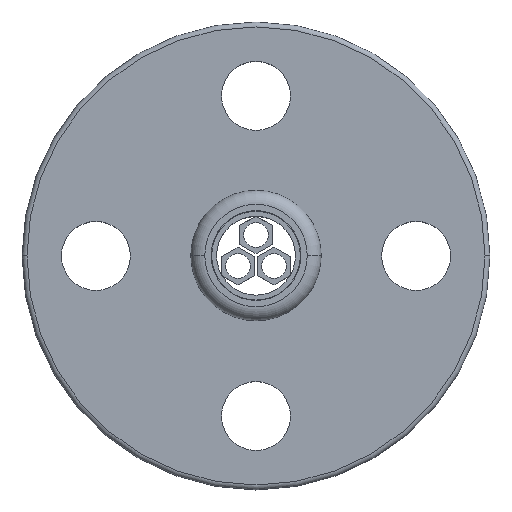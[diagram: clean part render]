
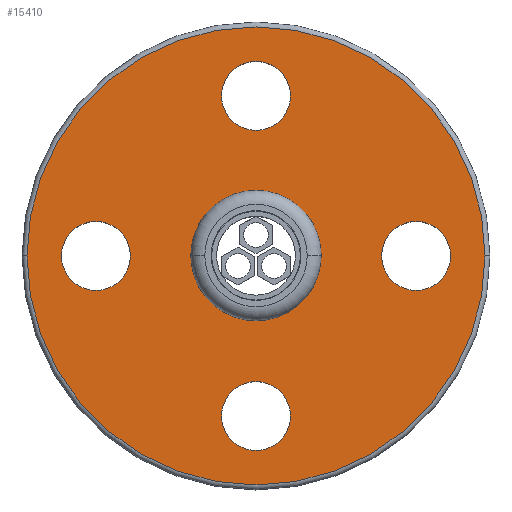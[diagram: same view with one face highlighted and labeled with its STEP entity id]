
A CAD part, top view. The second image highlights one B-rep face of the part: STEP entity #15410.
In plain terms, the highlighted planar face has unit normal (0, 0, 1) as drawn and (0, 1, 0) by its records, which use the part's own axes.
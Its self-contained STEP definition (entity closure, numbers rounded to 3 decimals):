
#14180=CARTESIAN_POINT('',(-193.976,16.121,
0.));
#14190=VERTEX_POINT('',#14180);
#14270=CARTESIAN_POINT('',(-211.976,16.121,0.));
#14280=VERTEX_POINT('',#14270);
#14310=CARTESIAN_POINT('',(-202.976,16.121,0.));
#14320=DIRECTION('',(0.,1.,0.));
#14330=DIRECTION('',(1.,0.,0.));
#14340=AXIS2_PLACEMENT_3D('',#14310,#14320,#14330);
#14350=CIRCLE('',#14340,9.);
#14360=EDGE_CURVE('',#14190,#14280,#14350,.T.);
#14460=EDGE_CURVE('',#14280,#14190,#14350,.T.);
#14570=CARTESIAN_POINT('',(-249.481,16.121,54.273))
;
#14580=DIRECTION('',(-0.,1.,0.));
#14590=DIRECTION('',(1.,0.,0.));
#14600=AXIS2_PLACEMENT_3D('',#14570,#14580,#14590);
#14610=PLANE('',#14600);
#14620=CARTESIAN_POINT('',(-235.476,16.121,0.));
#14630=DIRECTION('',(0.,1.,0.));
#14640=DIRECTION('',(0.,0.,-1.));
#14650=AXIS2_PLACEMENT_3D('',#14620,#14630,#14640);
#14660=CIRCLE('',#14650,7.);
#14670=CARTESIAN_POINT('',(-235.476,16.121,-7.));
#14680=VERTEX_POINT('',#14670);
#14690=CARTESIAN_POINT('',(-235.476,16.121,7.));
#14700=VERTEX_POINT('',#14690);
#14710=EDGE_CURVE('',#14680,#14700,#14660,.T.);
#14720=ORIENTED_EDGE('',*,*,#14710,.F.);
#14730=EDGE_CURVE('',#14700,#14680,#14660,.T.);
#14740=ORIENTED_EDGE('',*,*,#14730,.F.);
#14750=EDGE_LOOP('',(#14740,#14720));
#14760=FACE_BOUND('',#14750,.T.);
#14770=ORIENTED_EDGE('',*,*,#14360,.F.);
#14780=ORIENTED_EDGE('',*,*,#14460,.F.);
#14790=EDGE_LOOP('',(#14780,#14770));
#14800=FACE_BOUND('',#14790,.T.);
#14810=CARTESIAN_POINT('',(-202.976,16.121,32.5));
#14820=DIRECTION('',(0.,1.,0.));
#14830=DIRECTION('',(-1.,0.,0.));
#14840=AXIS2_PLACEMENT_3D('',#14810,#14820,#14830);
#14850=CIRCLE('',#14840,7.);
#14860=CARTESIAN_POINT('',(-209.976,16.121,32.5));
#14870=VERTEX_POINT('',#14860);
#14880=CARTESIAN_POINT('',(-195.976,16.121,32.5));
#14890=VERTEX_POINT('',#14880);
#14900=EDGE_CURVE('',#14870,#14890,#14850,.T.);
#14910=ORIENTED_EDGE('',*,*,#14900,.F.);
#14920=EDGE_CURVE('',#14890,#14870,#14850,.T.);
#14930=ORIENTED_EDGE('',*,*,#14920,.F.);
#14940=EDGE_LOOP('',(#14930,#14910));
#14950=FACE_BOUND('',#14940,.T.);
#14960=CARTESIAN_POINT('',(-170.476,16.121,
0.));
#14970=DIRECTION('',(0.,1.,0.));
#14980=DIRECTION('',(0.,0.,1.));
#14990=AXIS2_PLACEMENT_3D('',#14960,#14970,#14980);
#15000=CIRCLE('',#14990,7.);
#15010=CARTESIAN_POINT('',(-170.476,16.121,
7.));
#15020=VERTEX_POINT('',#15010);
#15030=CARTESIAN_POINT('',(-170.476,16.121,
-7.));
#15040=VERTEX_POINT('',#15030);
#15050=EDGE_CURVE('',#15020,#15040,#15000,.T.);
#15060=ORIENTED_EDGE('',*,*,#15050,.F.);
#15070=EDGE_CURVE('',#15040,#15020,#15000,.T.);
#15080=ORIENTED_EDGE('',*,*,#15070,.F.);
#15090=EDGE_LOOP('',(#15080,#15060));
#15100=FACE_BOUND('',#15090,.T.);
#15110=CARTESIAN_POINT('',(-202.976,16.121,-32.5));
#15120=DIRECTION('',(0.,1.,0.));
#15130=DIRECTION('',(1.,0.,0.));
#15140=AXIS2_PLACEMENT_3D('',#15110,#15120,#15130);
#15150=CIRCLE('',#15140,7.);
#15160=CARTESIAN_POINT('',(-195.976,16.121,-32.5));
#15170=VERTEX_POINT('',#15160);
#15180=CARTESIAN_POINT('',(-209.976,16.121,-32.5));
#15190=VERTEX_POINT('',#15180);
#15200=EDGE_CURVE('',#15170,#15190,#15150,.T.);
#15210=ORIENTED_EDGE('',*,*,#15200,.F.);
#15220=EDGE_CURVE('',#15190,#15170,#15150,.T.);
#15230=ORIENTED_EDGE('',*,*,#15220,.F.);
#15240=EDGE_LOOP('',(#15230,#15210));
#15250=FACE_BOUND('',#15240,.T.);
#15260=CARTESIAN_POINT('',(-202.976,16.121,0.));
#15270=DIRECTION('',(0.,1.,0.));
#15280=DIRECTION('',(1.,0.,0.));
#15290=AXIS2_PLACEMENT_3D('',#15260,#15270,#15280);
#15300=CIRCLE('',#15290,46.5);
#15310=CARTESIAN_POINT('',(-156.476,16.121,0.));
#15320=VERTEX_POINT('',#15310);
#15330=CARTESIAN_POINT('',(-249.476,16.121,0.));
#15340=VERTEX_POINT('',#15330);
#15350=EDGE_CURVE('',#15320,#15340,#15300,.T.);
#15360=ORIENTED_EDGE('',*,*,#15350,.T.);
#15370=EDGE_CURVE('',#15340,#15320,#15300,.T.);
#15380=ORIENTED_EDGE('',*,*,#15370,.T.);
#15390=EDGE_LOOP('',(#15380,#15360));
#15400=FACE_OUTER_BOUND('',#15390,.T.);
#15410=ADVANCED_FACE('',(#14760,#14800,#14950,#15100,#15250,#15400),
#14610,.T.);
